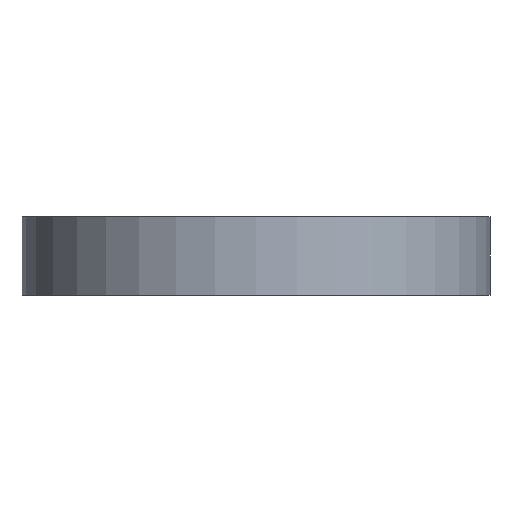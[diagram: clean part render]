
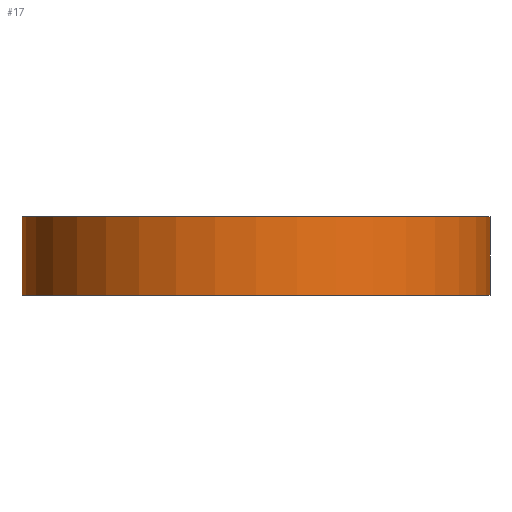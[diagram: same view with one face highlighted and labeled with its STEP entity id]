
A CAD part, front view. The second image highlights one B-rep face of the part: STEP entity #17.
In plain terms, the highlighted cylindrical face has radius 13.19 mm (diameter 26.38 mm), a full revolution.
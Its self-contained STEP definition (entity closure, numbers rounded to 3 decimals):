
#17 = ADVANCED_FACE('',(#18),#31,.T.);
#18 = FACE_BOUND('',#19,.T.);
#19 = EDGE_LOOP('',(#20,#54,#77,#104));
#20 = ORIENTED_EDGE('',*,*,#21,.F.);
#21 = EDGE_CURVE('',#22,#22,#24,.T.);
#22 = VERTEX_POINT('',#23);
#23 = CARTESIAN_POINT('',(13.19,0.,4.41));
#24 = SURFACE_CURVE('',#25,(#30,#42),.PCURVE_S1.);
#25 = CIRCLE('',#26,13.19);
#26 = AXIS2_PLACEMENT_3D('',#27,#28,#29);
#27 = CARTESIAN_POINT('',(0.,0.,4.41));
#28 = DIRECTION('',(0.,0.,1.));
#29 = DIRECTION('',(1.,0.,-0.));
#30 = PCURVE('',#31,#36);
#31 = CYLINDRICAL_SURFACE('',#32,13.19);
#32 = AXIS2_PLACEMENT_3D('',#33,#34,#35);
#33 = CARTESIAN_POINT('',(0.,0.,0.));
#34 = DIRECTION('',(0.,0.,1.));
#35 = DIRECTION('',(1.,0.,-0.));
#36 = DEFINITIONAL_REPRESENTATION('',(#37),#41);
#37 = LINE('',#38,#39);
#38 = CARTESIAN_POINT('',(0.,4.41));
#39 = VECTOR('',#40,1.);
#40 = DIRECTION('',(1.,0.));
#41 = ( GEOMETRIC_REPRESENTATION_CONTEXT(2) 
PARAMETRIC_REPRESENTATION_CONTEXT() REPRESENTATION_CONTEXT('2D SPACE',''
  ) );
#42 = PCURVE('',#43,#48);
#43 = PLANE('',#44);
#44 = AXIS2_PLACEMENT_3D('',#45,#46,#47);
#45 = CARTESIAN_POINT('',(0.,0.,4.41));
#46 = DIRECTION('',(0.,0.,1.));
#47 = DIRECTION('',(1.,0.,-0.));
#48 = DEFINITIONAL_REPRESENTATION('',(#49),#53);
#49 = CIRCLE('',#50,13.19);
#50 = AXIS2_PLACEMENT_2D('',#51,#52);
#51 = CARTESIAN_POINT('',(0.,0.));
#52 = DIRECTION('',(1.,0.));
#53 = ( GEOMETRIC_REPRESENTATION_CONTEXT(2) 
PARAMETRIC_REPRESENTATION_CONTEXT() REPRESENTATION_CONTEXT('2D SPACE',''
  ) );
#54 = ORIENTED_EDGE('',*,*,#55,.F.);
#55 = EDGE_CURVE('',#56,#22,#58,.T.);
#56 = VERTEX_POINT('',#57);
#57 = CARTESIAN_POINT('',(13.19,0.,0.));
#58 = SEAM_CURVE('',#59,(#63,#70),.PCURVE_S1.);
#59 = LINE('',#60,#61);
#60 = CARTESIAN_POINT('',(13.19,0.,0.));
#61 = VECTOR('',#62,1.);
#62 = DIRECTION('',(0.,0.,1.));
#63 = PCURVE('',#31,#64);
#64 = DEFINITIONAL_REPRESENTATION('',(#65),#69);
#65 = LINE('',#66,#67);
#66 = CARTESIAN_POINT('',(6.283,-0.));
#67 = VECTOR('',#68,1.);
#68 = DIRECTION('',(0.,1.));
#69 = ( GEOMETRIC_REPRESENTATION_CONTEXT(2) 
PARAMETRIC_REPRESENTATION_CONTEXT() REPRESENTATION_CONTEXT('2D SPACE',''
  ) );
#70 = PCURVE('',#31,#71);
#71 = DEFINITIONAL_REPRESENTATION('',(#72),#76);
#72 = LINE('',#73,#74);
#73 = CARTESIAN_POINT('',(0.,-0.));
#74 = VECTOR('',#75,1.);
#75 = DIRECTION('',(0.,1.));
#76 = ( GEOMETRIC_REPRESENTATION_CONTEXT(2) 
PARAMETRIC_REPRESENTATION_CONTEXT() REPRESENTATION_CONTEXT('2D SPACE',''
  ) );
#77 = ORIENTED_EDGE('',*,*,#78,.T.);
#78 = EDGE_CURVE('',#56,#56,#79,.T.);
#79 = SURFACE_CURVE('',#80,(#85,#92),.PCURVE_S1.);
#80 = CIRCLE('',#81,13.19);
#81 = AXIS2_PLACEMENT_3D('',#82,#83,#84);
#82 = CARTESIAN_POINT('',(0.,0.,0.));
#83 = DIRECTION('',(0.,0.,1.));
#84 = DIRECTION('',(1.,0.,-0.));
#85 = PCURVE('',#31,#86);
#86 = DEFINITIONAL_REPRESENTATION('',(#87),#91);
#87 = LINE('',#88,#89);
#88 = CARTESIAN_POINT('',(0.,0.));
#89 = VECTOR('',#90,1.);
#90 = DIRECTION('',(1.,0.));
#91 = ( GEOMETRIC_REPRESENTATION_CONTEXT(2) 
PARAMETRIC_REPRESENTATION_CONTEXT() REPRESENTATION_CONTEXT('2D SPACE',''
  ) );
#92 = PCURVE('',#93,#98);
#93 = PLANE('',#94);
#94 = AXIS2_PLACEMENT_3D('',#95,#96,#97);
#95 = CARTESIAN_POINT('',(0.,0.,0.));
#96 = DIRECTION('',(0.,0.,1.));
#97 = DIRECTION('',(1.,0.,-0.));
#98 = DEFINITIONAL_REPRESENTATION('',(#99),#103);
#99 = CIRCLE('',#100,13.19);
#100 = AXIS2_PLACEMENT_2D('',#101,#102);
#101 = CARTESIAN_POINT('',(0.,0.));
#102 = DIRECTION('',(1.,0.));
#103 = ( GEOMETRIC_REPRESENTATION_CONTEXT(2) 
PARAMETRIC_REPRESENTATION_CONTEXT() REPRESENTATION_CONTEXT('2D SPACE',''
  ) );
#104 = ORIENTED_EDGE('',*,*,#55,.T.);
